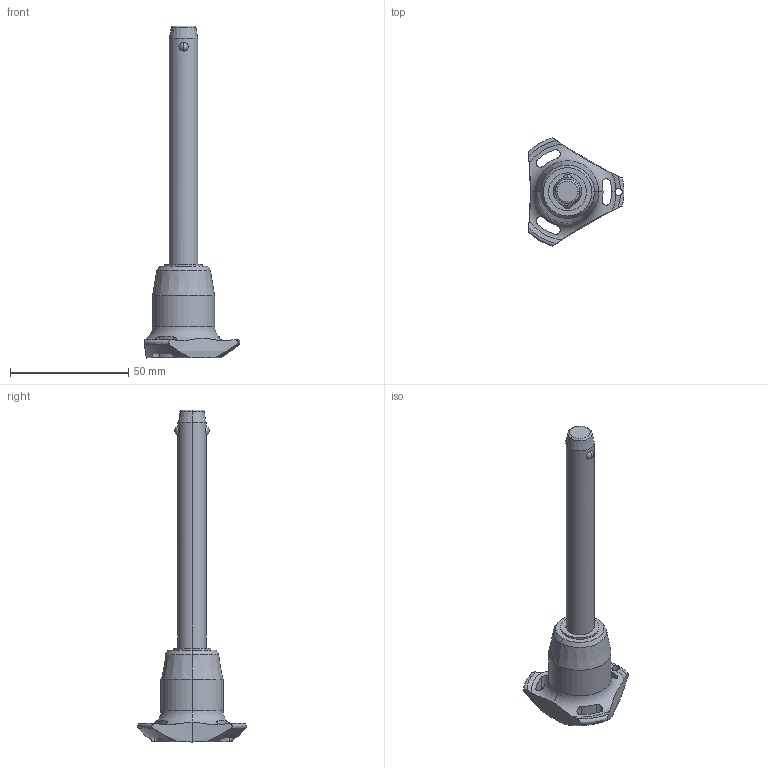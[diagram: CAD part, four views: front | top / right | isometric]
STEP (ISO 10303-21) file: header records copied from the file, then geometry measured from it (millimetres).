
FILE_DESCRIPTION (( 'STEP AP203' ), '1' );
FILE_NAME ('QR1704.M12-090-S.step', '2025-11-12T09:26:39', ( '' ), ( '' ), 'SwSTEP 2.0', 'SolidWorks 2019', '' );
FILE_SCHEMA (( 'CONFIG_CONTROL_DESIGN' ));
Length unit declared in the file: millimetre
Products named in the file (1): QR1704.M12-090-S
Bounding box: 40.5 x 45.88 x 140.3 mm (x, y, z)
Volume: 33313.9 mm3; surface area: 9730.5 mm2
Topology: 1 solids, 1 shells, 65 faces, 178 edges, 113 vertices
Faces by surface type: cylinder 30, cone 14, torus 11, sphere 6, plane 4
Entity records: 2862 total; most frequent: CARTESIAN_POINT 1173, ORIENTED_EDGE 356, DIRECTION 329, EDGE_CURVE 178, AXIS2_PLACEMENT_3D 147, VERTEX_POINT 113, CIRCLE 81, EDGE_LOOP 71
